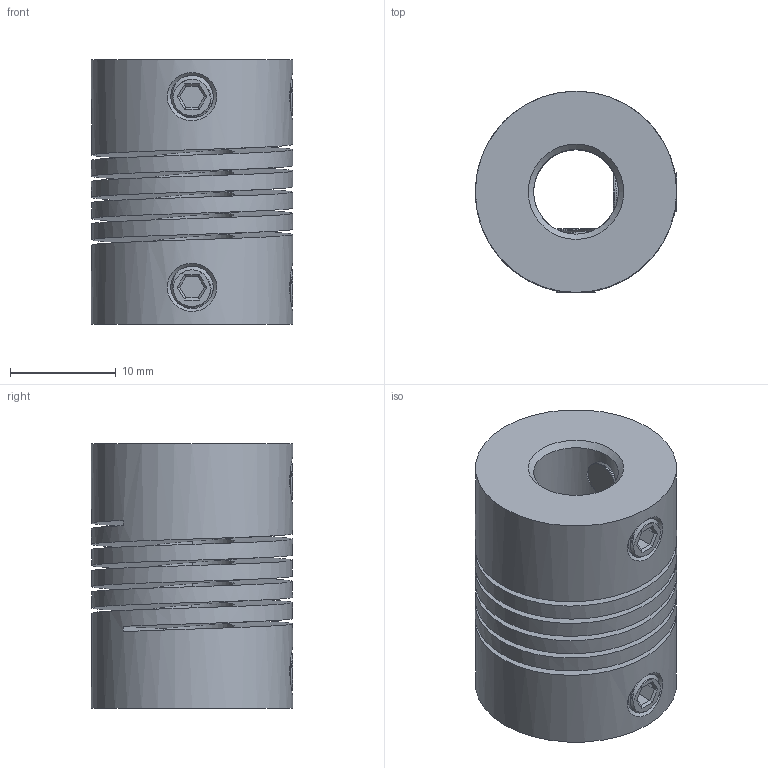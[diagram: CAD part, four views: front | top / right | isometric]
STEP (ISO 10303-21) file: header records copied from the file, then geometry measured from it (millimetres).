
FILE_DESCRIPTION(/* description */ (''),/* implementation_level */ '2;1');
FILE_NAME(/* name */ '8mm.stp',/* time_stamp */ '2023-06-28T18:11:40+08:00',/* author */ (''),/* organization */ (''),/* preprocessor_version */ 'ST-DEVELOPER v16.7',/* originating_system */ 'SIEMENS PLM Software NX 12.0',/* authorisation */ '');
FILE_SCHEMA (('AP203_CONFIGURATION_CONTROLLED_3D_DESIGN_OF_MECHANICAL_PARTS_AND_ASSEMBLIES_MIM_LF { 1 0 10303 403 2 1 2}'));
Length unit declared in the file: millimetre
Products named in the file (1): 29010CB0C2AExzh5
Bounding box: 19 x 19 x 25 mm (x, y, z)
Volume: 5162.6 mm3; surface area: 5462.3 mm2
Topology: 5 solids, 5 shells, 106 faces, 267 edges, 169 vertices
Faces by surface type: plane 64, cylinder 22, bspline 14, cone 6
Full cylindrical faces by diameter (mm): 4 x4, 8 x5, 19 x5
Entity records: 21290 total; most frequent: CARTESIAN_POINT 19137, ORIENTED_EDGE 420, DIRECTION 350, EDGE_CURVE 210, VERTEX_POINT 138, EDGE_LOOP 126, LINE 120, VECTOR 120
